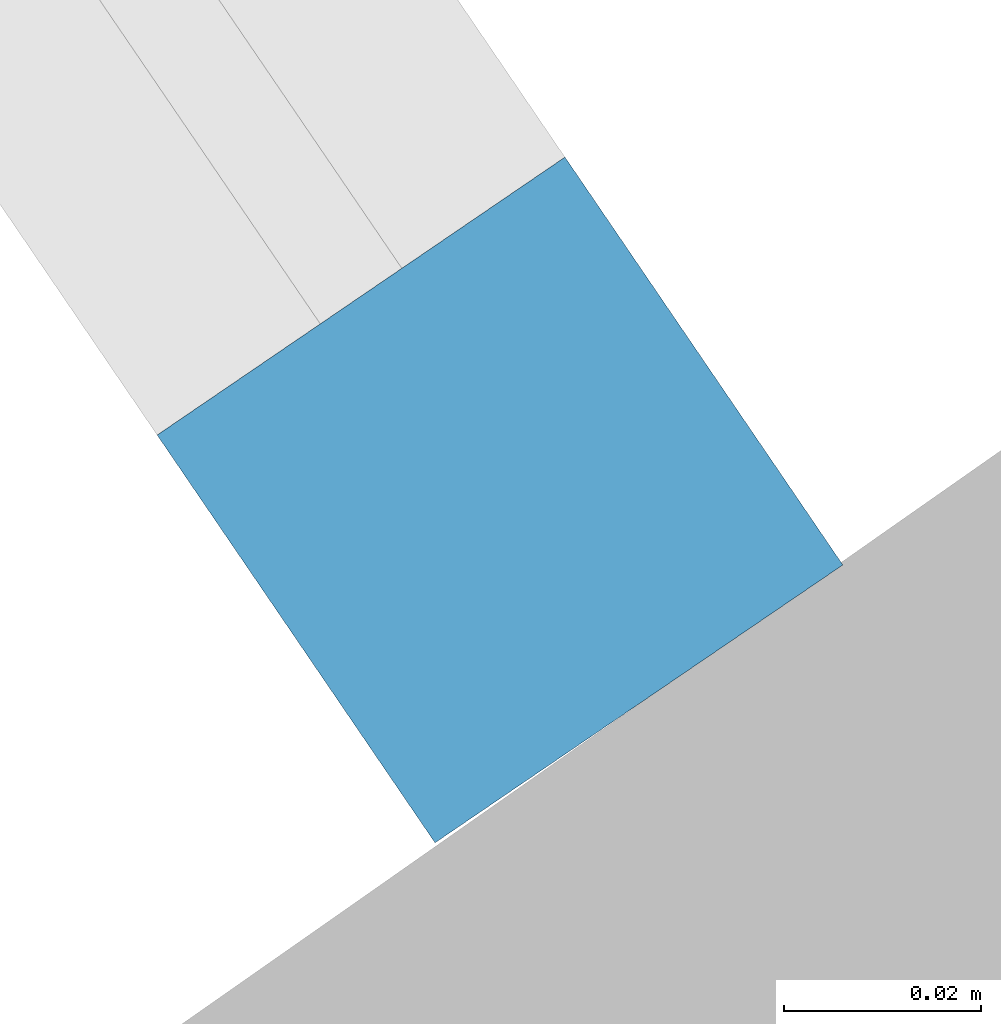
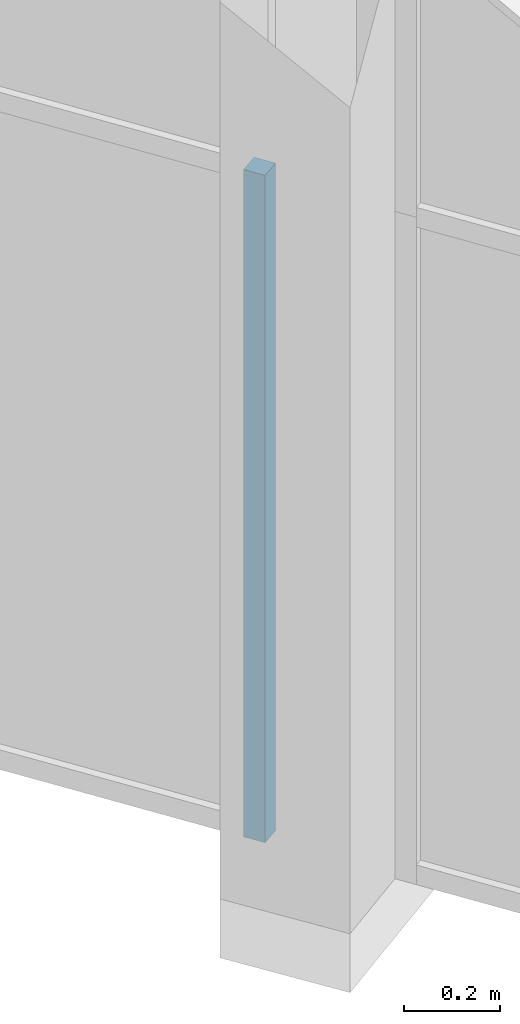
# One storey, part 15 of 157: 1 member, 1 element without a shape of its own.
"""IFC2X3 building model written with IfcOpenShell, lengths in millimetres."""

from ifc_helpers import new_model, entity, si_unit, converted_unit, derived_unit, direction, frame, origin, origin_2d_with_axis, place, context, subcontext, project, spatial, rectangle, extrude, source, transform, mapped, material, type_object, type_shapes, element, aggregate, save


model = new_model("IFC2X3")

# Units and contexts
model_context = context("Model", 3, precision=0.01, world=origin(), true_north=direction((6.123031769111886e-17, 1.0)))
body_context = subcontext(model_context, "Body", "Model", "MODEL_VIEW")
ifc_project = project(units=[si_unit("LENGTHUNIT", "METRE", prefix="MILLI"), si_unit("AREAUNIT", "SQUARE_METRE"), si_unit("VOLUMEUNIT", "CUBIC_METRE"), converted_unit("PLANEANGLEUNIT", "DEGREE", entity("IfcRatioMeasure", 0.017453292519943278), si_unit("PLANEANGLEUNIT", "RADIAN"), dimensions=[0, 0, 0, 0, 0, 0, 0]), si_unit("MASSUNIT", "GRAM", prefix="KILO"), derived_unit("MASSDENSITYUNIT", [(si_unit("MASSUNIT", "GRAM", prefix="KILO"), 1), (si_unit("LENGTHUNIT", "METRE"), -3)]), derived_unit("MOMENTOFINERTIAUNIT", [(si_unit("LENGTHUNIT", "METRE"), 4)]), si_unit("TIMEUNIT", "SECOND"), si_unit("FREQUENCYUNIT", "HERTZ"), si_unit("THERMODYNAMICTEMPERATUREUNIT", "DEGREE_CELSIUS"), derived_unit("THERMALTRANSMITTANCEUNIT", [(si_unit("MASSUNIT", "GRAM", prefix="KILO"), 1), (si_unit("THERMODYNAMICTEMPERATUREUNIT", "KELVIN"), -1), (si_unit("TIMEUNIT", "SECOND"), -3)]), derived_unit("THERMALCONDUCTANCEUNIT", [(si_unit("MASSUNIT", "GRAM", prefix="KILO"), 1), (si_unit("LENGTHUNIT", "METRE"), 1), (si_unit("THERMODYNAMICTEMPERATUREUNIT", "KELVIN"), -1), (si_unit("TIMEUNIT", "SECOND"), -3)]), derived_unit("VOLUMETRICFLOWRATEUNIT", [(si_unit("LENGTHUNIT", "METRE"), 3), (si_unit("TIMEUNIT", "SECOND"), -1)]), derived_unit("MASSFLOWRATEUNIT", [(si_unit("MASSUNIT", "GRAM", prefix="KILO"), 1), (si_unit("TIMEUNIT", "SECOND"), -1)]), derived_unit("ROTATIONALFREQUENCYUNIT", [(si_unit("TIMEUNIT", "SECOND"), -1)]), si_unit("ELECTRICCURRENTUNIT", "AMPERE"), si_unit("ELECTRICVOLTAGEUNIT", "VOLT"), si_unit("POWERUNIT", "WATT"), converted_unit("FORCEUNIT", "KIP", entity("IfcRatioMeasure", 2.088543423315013e-05), si_unit("FORCEUNIT", "NEWTON"), dimensions=[1, 1, -2, 0, 0, 0, 0]), si_unit("ILLUMINANCEUNIT", "LUX"), si_unit("LUMINOUSFLUXUNIT", "LUMEN"), si_unit("LUMINOUSINTENSITYUNIT", "CANDELA"), derived_unit("USERDEFINED", [(si_unit("MASSUNIT", "GRAM", prefix="KILO"), -1), (si_unit("LENGTHUNIT", "METRE"), -2), (si_unit("TIMEUNIT", "SECOND"), 3), (si_unit("LUMINOUSFLUXUNIT", "LUMEN"), 1)]), derived_unit("USERDEFINED", [(si_unit("MASSUNIT", "GRAM", prefix="KILO"), 1), (si_unit("LENGTHUNIT", "METRE"), 3), (si_unit("TIMEUNIT", "SECOND"), -3), (si_unit("ELECTRICCURRENTUNIT", "AMPERE"), -2)]), derived_unit("USERDEFINED", [(si_unit("LENGTHUNIT", "METRE"), 2), (si_unit("TIMEUNIT", "SECOND"), -2)]), derived_unit("SOUNDPOWERUNIT", [(si_unit("MASSUNIT", "GRAM", prefix="KILO"), 1), (si_unit("LENGTHUNIT", "METRE"), 2), (si_unit("TIMEUNIT", "SECOND"), -3)]), derived_unit("SOUNDPRESSUREUNIT", [(si_unit("MASSUNIT", "GRAM", prefix="KILO"), 1), (si_unit("LENGTHUNIT", "METRE"), -1), (si_unit("TIMEUNIT", "SECOND"), -2)]), derived_unit("LINEARVELOCITYUNIT", [(si_unit("LENGTHUNIT", "METRE"), 1), (si_unit("TIMEUNIT", "SECOND"), -1)]), si_unit("PRESSUREUNIT", "PASCAL"), derived_unit("USERDEFINED", [(si_unit("LENGTHUNIT", "METRE"), -2), (si_unit("MASSUNIT", "GRAM", prefix="KILO"), 1), (si_unit("TIMEUNIT", "SECOND"), -2)]), derived_unit("LINEARFORCEUNIT", [(si_unit("MASSUNIT", "GRAM", prefix="KILO"), 1), (si_unit("LENGTHUNIT", "METRE"), 1), (si_unit("TIMEUNIT", "SECOND"), -2), (si_unit("LENGTHUNIT", "METRE"), -1)]), derived_unit("PLANARFORCEUNIT", [(si_unit("MASSUNIT", "GRAM", prefix="KILO"), 1), (si_unit("LENGTHUNIT", "METRE"), 1), (si_unit("TIMEUNIT", "SECOND"), -2), (si_unit("LENGTHUNIT", "METRE"), -2)]), derived_unit("SPECIFICHEATCAPACITYUNIT", [(si_unit("LENGTHUNIT", "METRE"), 2), (si_unit("TIMEUNIT", "SECOND"), -2), (si_unit("THERMODYNAMICTEMPERATUREUNIT", "KELVIN"), -1)]), derived_unit("VAPORPERMEABILITYUNIT", [(si_unit("TIMEUNIT", "SECOND"), 1), (si_unit("LENGTHUNIT", "METRE"), -1)]), derived_unit("DYNAMICVISCOSITYUNIT", [(si_unit("MASSUNIT", "GRAM", prefix="KILO"), 1), (si_unit("LENGTHUNIT", "METRE"), -1), (si_unit("TIMEUNIT", "SECOND"), -1)]), derived_unit("THERMALEXPANSIONCOEFFICIENTUNIT", [(si_unit("THERMODYNAMICTEMPERATUREUNIT", "KELVIN"), -1)])], contexts=[model_context])

# Site, building, storey
site_placement = place(None, frame((0.0, 0.0, 0.0), z_axis=(0.0, 0.0, 1.0), x_axis=(0.8191520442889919, 0.5735764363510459, 0.0)))
site = spatial("IfcSite", under=ifc_project, at=site_placement, Name="Default", CompositionType="ELEMENT")
building_placement = place(site_placement, origin())
building = spatial("IfcBuilding", under=site, at=building_placement, CompositionType="ELEMENT")
storey_placement = place(building_placement, origin())
storey = spatial("IfcBuildingStorey", under=building, at=storey_placement, Name="1.EG +0.00", CompositionType="ELEMENT", Elevation=-4.331468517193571e-12)

# Curtain wall, member
curtain_wall_type = type_object("IfcCurtainWallType", Name="Curtain Wall:Curtain_Wall_CJC", PredefinedType="NOTDEFINED")
curtain_wall_placement = place(storey_placement, origin())
curtain_wall = element("IfcCurtainWall", 1, at=curtain_wall_placement, inside=storey, type_object=curtain_wall_type, Name="Curtain Wall:Curtain_Wall_CJC", ObjectType="Curtain Wall:Curtain_Wall_CJC")
ifc_material = material(Name="Aluminium")
member_type = type_object("IfcMemberType", Name="Rectangular Mullion:5x5", PredefinedType="MULLION", material=ifc_material)
shared_shape = source(origin(), body_context, "Body", "SweptSolid", [
    extrude(rectangle(XDim=50.0, YDim=50.0, at=origin_2d_with_axis()), frame((-25.0, 0.0, -1700.0), z_axis=(0.0, 0.0, 1.0), x_axis=(0.0, -1.0, 0.0)), (0.0, 0.0, 1.0), 1699.9999999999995),
])
type_shapes(member_type, [shared_shape])
member_placement = place(curtain_wall_placement, frame((-223070.5851543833, 113945.23194626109, 1700.0), z_axis=(0.0, 0.0, 1.0), x_axis=(-0.01272958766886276, -0.999918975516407, 0.0)))
member = element("IfcMember", 2, at=member_placement, type_object=member_type, material=ifc_material, Name="Rectangular Mullion:5x5", ObjectType="Rectangular Mullion:5x5", context=body_context, shape_type="MappedRepresentation", body=[
    mapped(shared_shape, transform((0.0, 0.0, 0.0), scale=1.0)),
])
aggregate(curtain_wall, [member])

save(model, "model.ifc")
